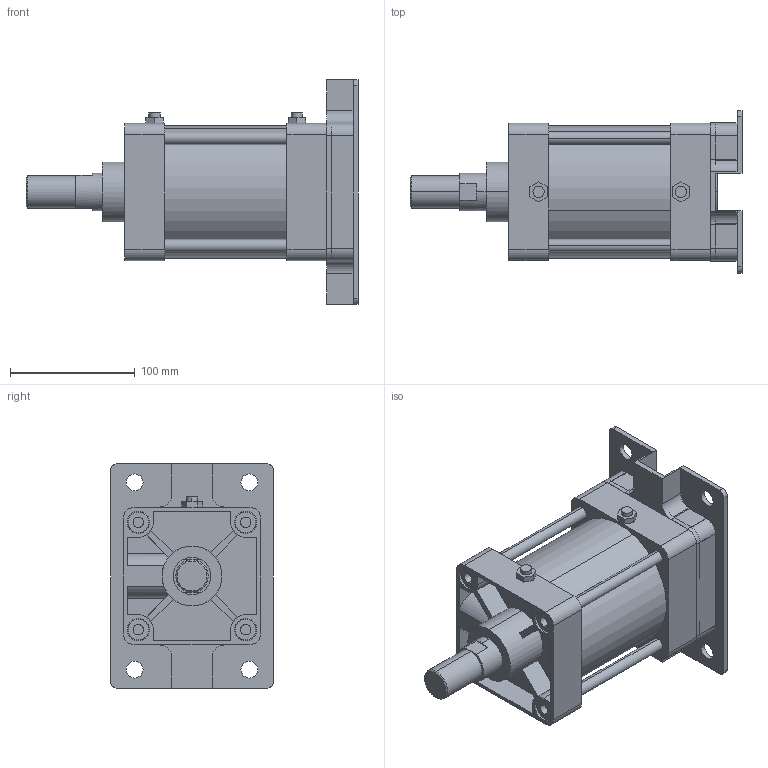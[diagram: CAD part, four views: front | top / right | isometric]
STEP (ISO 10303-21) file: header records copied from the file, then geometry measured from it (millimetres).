
FILE_DESCRIPTION (( 'STEP AP203' ), '1' );
FILE_NAME ('KG2-100-50-B.STEP', '2016-04-01T08:22:31', ( '' ), ( '' ), 'SwSTEP 2.0', 'SolidWorks 2014', '' );
FILE_SCHEMA (( 'CONFIG_CONTROL_DESIGN' ));
Length unit declared in the file: millimetre
Products named in the file (7): KG2-100-After; K-100-AB; KG2-100-50-B; KGLH2-100-50
Assembly tree (16 placements, depth 2):
  KG2-100-50-B
    KG2-100-After
    KGLH2-100-50
    (unnamed)
    (unnamed)  x4
    (unnamed)  x8
    K-100-AB
Bounding box: 266 x 130 x 180 mm (x, y, z)
Volume: 1583032.3 mm3; surface area: 271789.1 mm2
Topology: 16 solids, 16 shells, 373 faces, 915 edges, 590 vertices
Faces by surface type: plane 162, cylinder 153, torus 32, cone 26
Entity records: 9779 total; most frequent: CARTESIAN_POINT 1587, DIRECTION 1583, ORIENTED_EDGE 1450, EDGE_CURVE 725, AXIS2_PLACEMENT_3D 578, VERTEX_POINT 480, VECTOR 427, LINE 427
